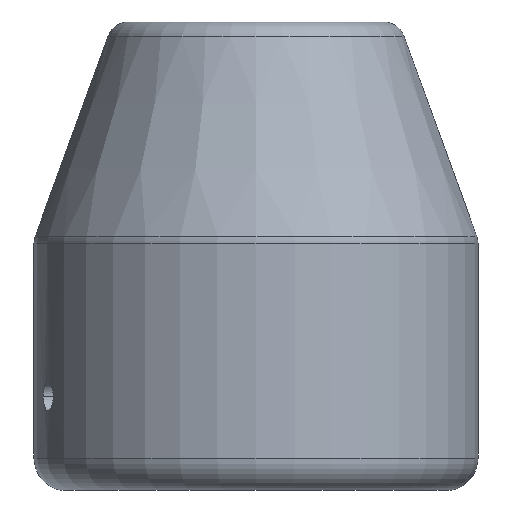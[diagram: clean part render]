
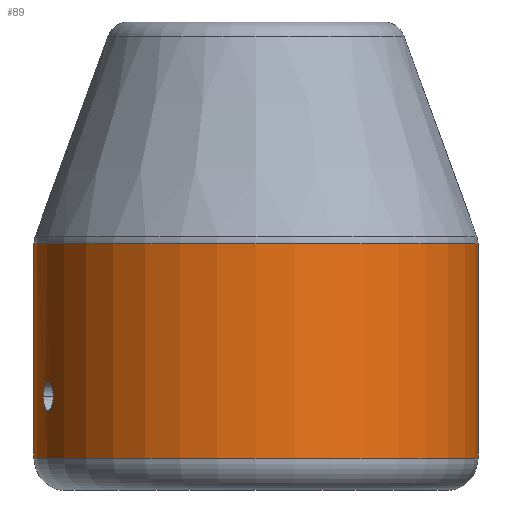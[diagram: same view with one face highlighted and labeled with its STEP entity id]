
A CAD part, front view. The second image highlights one B-rep face of the part: STEP entity #89.
In plain terms, the highlighted cylindrical face has radius 20.4 mm (diameter 40.8 mm), a partial arc.
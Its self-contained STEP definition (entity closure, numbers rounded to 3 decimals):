
#16 = LINE ( 'NONE', #597, #403 ) ;
#17 = DIRECTION ( 'NONE',  ( 0., 0., -1. ) ) ;
#19 = DIRECTION ( 'NONE',  ( -1., 0., 0. ) ) ;
#34 = CYLINDRICAL_SURFACE ( 'NONE', #656, 20.4 ) ;
#40 = CARTESIAN_POINT ( 'NONE',  ( -19.342, -6.486, 43.72 ) ) ;
#43 = CARTESIAN_POINT ( 'NONE',  ( -18.686, -8.184, 42.015 ) ) ;
#54 = CARTESIAN_POINT ( 'NONE',  ( -19.49, -6.024, 43.246 ) ) ;
#70 = CARTESIAN_POINT ( 'NONE',  ( -19.462, -6.116, 41.794 ) ) ;
#73 = CIRCLE ( 'NONE', #260, 20.4 ) ;
#89 = ADVANCED_FACE ( 'NONE', ( #721, #734 ), #34, .T. ) ;
#103 = CARTESIAN_POINT ( 'NONE',  ( -19.185, -6.939, 43.892 ) ) ;
#111 = CARTESIAN_POINT ( 'NONE',  ( -18.917, -7.637, 43.761 ) ) ;
#113 = CARTESIAN_POINT ( 'NONE',  ( -18.74, -8.061, 41.799 ) ) ;
#136 = CARTESIAN_POINT ( 'NONE',  ( -19.183, -6.94, 41.3 ) ) ;
#139 = CARTESIAN_POINT ( 'NONE',  ( 20.4, 0., 36.939 ) ) ;
#143 = CARTESIAN_POINT ( 'NONE',  ( -19.528, -5.9, 42.933 ) ) ;
#146 = VERTEX_POINT ( 'NONE', #139 ) ;
#152 = EDGE_CURVE ( 'NONE', #317, #146, #754, .T. ) ;
#153 = ORIENTED_EDGE ( 'NONE', *, *, #698, .T. ) ;
#167 = CARTESIAN_POINT ( 'NONE',  ( -18.809, -7.899, 43.572 ) ) ;
#172 = EDGE_CURVE ( 'NONE', #547, #489, #377, .T. ) ;
#191 = CARTESIAN_POINT ( 'NONE',  ( -19.526, -5.907, 42.254 ) ) ;
#199 = CARTESIAN_POINT ( 'NONE',  ( -19.538, -5.867, 42.592 ) ) ;
#204 = CARTESIAN_POINT ( 'NONE',  ( 0., 0., 57. ) ) ;
#207 = ORIENTED_EDGE ( 'NONE', *, *, #379, .T. ) ;
#223 = CARTESIAN_POINT ( 'NONE',  ( -18.633, -8.305, 42.764 ) ) ;
#239 = CARTESIAN_POINT ( 'NONE',  ( -20.4, 0., 56.647 ) ) ;
#251 = CARTESIAN_POINT ( 'NONE',  ( -19.538, -5.867, 42.592 ) ) ;
#253 = ORIENTED_EDGE ( 'NONE', *, *, #152, .T. ) ;
#255 = AXIS2_PLACEMENT_3D ( 'NONE', #671, #368, #598 ) ;
#256 = DIRECTION ( 'NONE',  ( 0., 0., -1. ) ) ;
#260 = AXIS2_PLACEMENT_3D ( 'NONE', #610, #447, #684 ) ;
#265 = DIRECTION ( 'NONE',  ( 0., 0., -1. ) ) ;
#278 = CARTESIAN_POINT ( 'NONE',  ( -18.702, -8.147, 41.941 ) ) ;
#288 = CARTESIAN_POINT ( 'NONE',  ( -18.888, -7.707, 43.721 ) ) ;
#302 = CARTESIAN_POINT ( 'NONE',  ( -19.004, -7.42, 41.326 ) ) ;
#306 = CARTESIAN_POINT ( 'NONE',  ( -19.538, -5.867, 42.507 ) ) ;
#316 = ORIENTED_EDGE ( 'NONE', *, *, #710, .T. ) ;
#317 = VERTEX_POINT ( 'NONE', #563 ) ;
#331 = CARTESIAN_POINT ( 'NONE',  ( -18.647, -8.273, 42.934 ) ) ;
#360 = CARTESIAN_POINT ( 'NONE',  ( -19.154, -7.021, 41.292 ) ) ;
#364 = CARTESIAN_POINT ( 'NONE',  ( -19.065, -7.26, 41.292 ) ) ;
#368 = DIRECTION ( 'NONE',  ( 0., 0., 1. ) ) ;
#377 = B_SPLINE_CURVE_WITH_KNOTS ( 'NONE', 3,
 ( #199, #429, #143, #54, #554, #688, #393, #40, #453, #624, #103, #634, #565, #111, #288, #503, #167, #750, #512, #331, #223, #456 ),
 .UNSPECIFIED., .F., .F.,
 ( 4, 2, 2, 2, 2, 2, 2, 2, 2, 2, 4 ),
 ( 0.004, 0.005, 0.005, 0.005, 0.006, 0.006, 0.007, 0.007, 0.007, 0.008, 0.008 ),
 .UNSPECIFIED. ) ;
#379 = EDGE_CURVE ( 'NONE', #611, #538, #73, .T. ) ;
#384 = B_SPLINE_CURVE_WITH_KNOTS ( 'NONE', 3,
 ( #636, #683, #395, #43, #278, #113, #626, #419, #471, #302, #364, #360, #136, #588, #474, #593, #720, #70, #651, #485, #191, #477, #306, #251 ),
 .UNSPECIFIED., .F., .F.,
 ( 4, 2, 2, 2, 2, 2, 2, 2, 2, 2, 2, 4 ),
 ( 0., 0.001, 0.001, 0.001, 0.002, 0.002, 0.002, 0.003, 0.003, 0.004, 0.004, 0.004 ),
 .UNSPECIFIED. ) ;
#393 = CARTESIAN_POINT ( 'NONE',  ( -19.386, -6.352, 43.625 ) ) ;
#395 = CARTESIAN_POINT ( 'NONE',  ( -18.647, -8.274, 42.251 ) ) ;
#403 = VECTOR ( 'NONE', #256, 1000. ) ;
#409 = CARTESIAN_POINT ( 'NONE',  ( -19.538, -5.867, 42.592 ) ) ;
#413 = CARTESIAN_POINT ( 'NONE',  ( -18.633, -8.305, 42.592 ) ) ;
#419 = CARTESIAN_POINT ( 'NONE',  ( -18.832, -7.844, 41.553 ) ) ;
#429 = CARTESIAN_POINT ( 'NONE',  ( -19.538, -5.867, 42.762 ) ) ;
#441 = ORIENTED_EDGE ( 'NONE', *, *, #172, .T. ) ;
#446 = CARTESIAN_POINT ( 'NONE',  ( 20.4, 0., 56.647 ) ) ;
#447 = DIRECTION ( 'NONE',  ( 0., 0., -1. ) ) ;
#448 = VECTOR ( 'NONE', #17, 1000. ) ;
#453 = CARTESIAN_POINT ( 'NONE',  ( -19.318, -6.556, 43.76 ) ) ;
#456 = CARTESIAN_POINT ( 'NONE',  ( -18.633, -8.305, 42.592 ) ) ;
#471 = CARTESIAN_POINT ( 'NONE',  ( -18.887, -7.71, 41.456 ) ) ;
#474 = CARTESIAN_POINT ( 'NONE',  ( -19.266, -6.707, 41.358 ) ) ;
#477 = CARTESIAN_POINT ( 'NONE',  ( -19.536, -5.875, 42.421 ) ) ;
#485 = CARTESIAN_POINT ( 'NONE',  ( -19.519, -5.931, 42.173 ) ) ;
#486 = ORIENTED_EDGE ( 'NONE', *, *, #716, .F. ) ;
#489 = VERTEX_POINT ( 'NONE', #413 ) ;
#497 = EDGE_LOOP ( 'NONE', ( #486, #207, #316, #253 ) ) ;
#503 = CARTESIAN_POINT ( 'NONE',  ( -18.835, -7.837, 43.627 ) ) ;
#512 = CARTESIAN_POINT ( 'NONE',  ( -18.7, -8.154, 43.247 ) ) ;
#526 = LINE ( 'NONE', #658, #448 ) ;
#538 = VERTEX_POINT ( 'NONE', #239 ) ;
#547 = VERTEX_POINT ( 'NONE', #409 ) ;
#554 = CARTESIAN_POINT ( 'NONE',  ( -19.462, -6.117, 43.391 ) ) ;
#563 = CARTESIAN_POINT ( 'NONE',  ( -20.4, 0., 36.939 ) ) ;
#565 = CARTESIAN_POINT ( 'NONE',  ( -19.004, -7.418, 43.858 ) ) ;
#588 = CARTESIAN_POINT ( 'NONE',  ( -19.239, -6.783, 41.334 ) ) ;
#593 = CARTESIAN_POINT ( 'NONE',  ( -19.343, -6.483, 41.456 ) ) ;
#597 = CARTESIAN_POINT ( 'NONE',  ( 20.4, 0., 57. ) ) ;
#598 = DIRECTION ( 'NONE',  ( -1., 0., 0. ) ) ;
#610 = CARTESIAN_POINT ( 'NONE',  ( 0., 0., 56.647 ) ) ;
#611 = VERTEX_POINT ( 'NONE', #446 ) ;
#624 = CARTESIAN_POINT ( 'NONE',  ( -19.241, -6.78, 43.858 ) ) ;
#626 = CARTESIAN_POINT ( 'NONE',  ( -18.762, -8.01, 41.732 ) ) ;
#634 = CARTESIAN_POINT ( 'NONE',  ( -19.065, -7.26, 43.892 ) ) ;
#636 = CARTESIAN_POINT ( 'NONE',  ( -18.633, -8.305, 42.592 ) ) ;
#651 = CARTESIAN_POINT ( 'NONE',  ( -19.49, -6.025, 41.937 ) ) ;
#656 = AXIS2_PLACEMENT_3D ( 'NONE', #204, #265, #19 ) ;
#658 = CARTESIAN_POINT ( 'NONE',  ( -20.4, 0., 57. ) ) ;
#671 = CARTESIAN_POINT ( 'NONE',  ( 0., 0., 36.939 ) ) ;
#683 = CARTESIAN_POINT ( 'NONE',  ( -18.633, -8.305, 42.42 ) ) ;
#684 = DIRECTION ( 'NONE',  ( -1., 0., 0. ) ) ;
#688 = CARTESIAN_POINT ( 'NONE',  ( -19.407, -6.288, 43.57 ) ) ;
#698 = EDGE_CURVE ( 'NONE', #489, #547, #384, .T. ) ;
#710 = EDGE_CURVE ( 'NONE', #538, #317, #526, .T. ) ;
#713 = EDGE_LOOP ( 'NONE', ( #153, #441 ) ) ;
#716 = EDGE_CURVE ( 'NONE', #611, #146, #16, .T. ) ;
#720 = CARTESIAN_POINT ( 'NONE',  ( -19.388, -6.347, 41.551 ) ) ;
#721 = FACE_OUTER_BOUND ( 'NONE', #497, .T. ) ;
#734 = FACE_BOUND ( 'NONE', #713, .T. ) ;
#750 = CARTESIAN_POINT ( 'NONE',  ( -18.738, -8.065, 43.392 ) ) ;
#754 = CIRCLE ( 'NONE', #255, 20.4 ) ;
